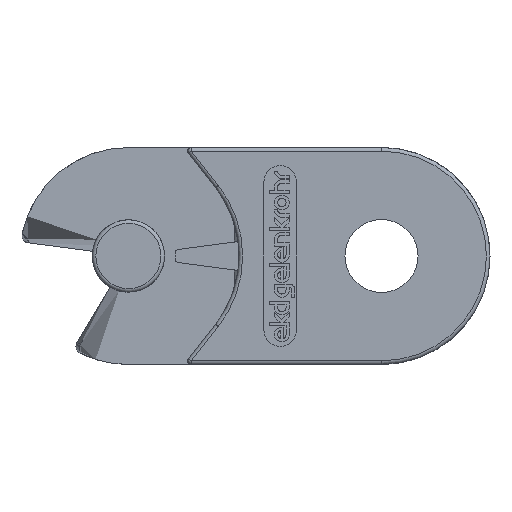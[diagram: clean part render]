
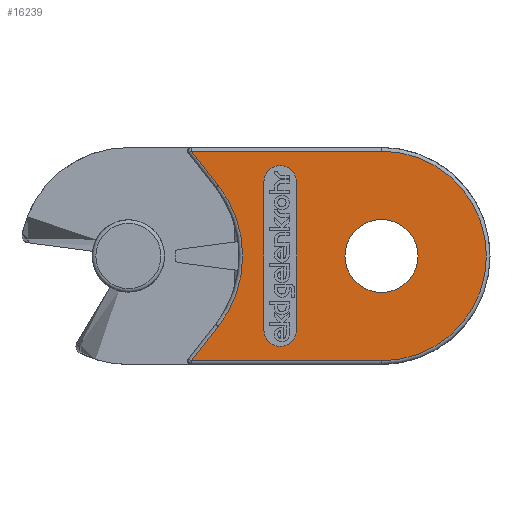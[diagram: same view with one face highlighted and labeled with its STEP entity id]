
A CAD part, left-side view. The second image highlights one B-rep face of the part: STEP entity #16239.
In plain terms, the highlighted planar face has unit normal (-1, 0, 0).
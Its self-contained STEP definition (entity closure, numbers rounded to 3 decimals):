
#8602=CARTESIAN_POINT('',(0.0,12.85,15.));
#8603=VERTEX_POINT('',#8602);
#8604=CARTESIAN_POINT('',(0.0,17.9,15.));
#8605=DIRECTION('',(1.0,0.0,0.0));
#8606=DIRECTION('',(0.0,1.0,0.0));
#8607=AXIS2_PLACEMENT_3D('',#8604,#8605,#8606);
#8608=CIRCLE('',#8607,5.05);
#8609=EDGE_CURVE('',#8603,#8603,#8608,.T.);
#9043=CARTESIAN_POINT('',(0.0,-8.393,29.5));
#9044=VERTEX_POINT('',#9043);
#9068=CARTESIAN_POINT('',(0.0,-8.393,0.5));
#9069=VERTEX_POINT('',#9068);
#9092=CARTESIAN_POINT('',(0.0,-4.668,24.751));
#9093=VERTEX_POINT('',#9092);
#9108=CARTESIAN_POINT('',(0.0,-8.393,29.5));
#9109=DIRECTION('',(0.0,0.617,-0.787));
#9110=VECTOR('',#9109,6.035);
#9111=LINE('',#9108,#9110);
#9112=EDGE_CURVE('',#9044,#9093,#9111,.T.);
#9124=CARTESIAN_POINT('',(0.0,-4.668,5.249));
#9125=VERTEX_POINT('',#9124);
#9126=CARTESIAN_POINT('',(0.0,-17.1,15.));
#9127=DIRECTION('',(-1.0,0.0,0.0));
#9128=DIRECTION('',(0.0,1.,0.));
#9129=AXIS2_PLACEMENT_3D('',#9126,#9127,#9128);
#9130=CIRCLE('',#9129,15.8);
#9131=EDGE_CURVE('',#9093,#9125,#9130,.T.);
#9156=CARTESIAN_POINT('',(0.0,-4.668,5.249));
#9157=DIRECTION('',(0.0,-0.617,-0.787));
#9158=VECTOR('',#9157,6.035);
#9159=LINE('',#9156,#9158);
#9160=EDGE_CURVE('',#9125,#9069,#9159,.T.);
#9170=CARTESIAN_POINT('',(0.0,17.9,29.5));
#9171=VERTEX_POINT('',#9170);
#9181=CARTESIAN_POINT('',(0.0,17.9,29.5));
#9182=DIRECTION('',(0.0,-1.0,0.0));
#9183=VECTOR('',#9182,26.293);
#9184=LINE('',#9181,#9183);
#9185=EDGE_CURVE('',#9171,#9044,#9184,.T.);
#9202=CARTESIAN_POINT('',(0.0,17.9,0.5));
#9203=VERTEX_POINT('',#9202);
#9204=CARTESIAN_POINT('',(0.0,17.9,15.));
#9205=DIRECTION('',(1.0,0.0,0.0));
#9206=DIRECTION('',(0.0,1.0,0.0));
#9207=AXIS2_PLACEMENT_3D('',#9204,#9205,#9206);
#9208=CIRCLE('',#9207,14.5);
#9209=EDGE_CURVE('',#9203,#9171,#9208,.T.);
#9237=CARTESIAN_POINT('',(0.0,-8.393,0.5));
#9238=DIRECTION('',(0.0,1.0,0.0));
#9239=VECTOR('',#9238,26.293);
#9240=LINE('',#9237,#9239);
#9241=EDGE_CURVE('',#9069,#9203,#9240,.T.);
#10244=CARTESIAN_POINT('',(0.0,6.147,25.25));
#10245=VERTEX_POINT('',#10244);
#10246=CARTESIAN_POINT('',(0.0,1.647,25.25));
#10247=VERTEX_POINT('',#10246);
#10248=CARTESIAN_POINT('',(0.0,3.897,25.25));
#10249=DIRECTION('',(1.0,0.0,0.0));
#10250=DIRECTION('',(0.0,0.0,-1.0));
#10251=AXIS2_PLACEMENT_3D('',#10248,#10249,#10250);
#10252=CIRCLE('',#10251,2.25);
#10253=EDGE_CURVE('',#10245,#10247,#10252,.T.);
#10297=CARTESIAN_POINT('',(0.0,6.147,4.75));
#10298=VERTEX_POINT('',#10297);
#10305=CARTESIAN_POINT('',(0.0,1.647,4.75));
#10306=VERTEX_POINT('',#10305);
#10307=CARTESIAN_POINT('',(0.0,3.897,4.75));
#10308=DIRECTION('',(1.0,0.0,0.0));
#10309=DIRECTION('',(0.0,0.0,-1.0));
#10310=AXIS2_PLACEMENT_3D('',#10307,#10308,#10309);
#10311=CIRCLE('',#10310,2.25);
#10312=EDGE_CURVE('',#10306,#10298,#10311,.T.);
#15198=CARTESIAN_POINT('',(0.0,1.647,25.25));
#15199=DIRECTION('',(0.0,0.0,-1.0));
#15200=VECTOR('',#15199,20.5);
#15201=LINE('',#15198,#15200);
#15202=EDGE_CURVE('',#10247,#10306,#15201,.T.);
#15220=CARTESIAN_POINT('',(0.0,6.147,4.75));
#15221=DIRECTION('',(0.0,0.0,1.0));
#15222=VECTOR('',#15221,20.5);
#15223=LINE('',#15220,#15222);
#15224=EDGE_CURVE('',#10298,#10245,#15223,.T.);
#16217=CARTESIAN_POINT('',(0.0,0.189,15.));
#16218=DIRECTION('',(-1.0,0.0,0.0));
#16219=DIRECTION('',(0.0,-1.0,0.0));
#16220=AXIS2_PLACEMENT_3D('',#16217,#16218,#16219);
#16221=PLANE('',#16220);
#16222=ORIENTED_EDGE('',*,*,#9241,.F.);
#16223=ORIENTED_EDGE('',*,*,#9160,.F.);
#16224=ORIENTED_EDGE('',*,*,#9131,.F.);
#16225=ORIENTED_EDGE('',*,*,#9112,.F.);
#16226=ORIENTED_EDGE('',*,*,#9185,.F.);
#16227=ORIENTED_EDGE('',*,*,#9209,.F.);
#16228=EDGE_LOOP('',(#16222,#16223,#16224,#16225,#16226,#16227));
#16229=FACE_OUTER_BOUND('',#16228,.T.);
#16230=ORIENTED_EDGE('',*,*,#10312,.T.);
#16231=ORIENTED_EDGE('',*,*,#15224,.T.);
#16232=ORIENTED_EDGE('',*,*,#10253,.T.);
#16233=ORIENTED_EDGE('',*,*,#15202,.T.);
#16234=EDGE_LOOP('',(#16230,#16231,#16232,#16233));
#16235=FACE_BOUND('',#16234,.T.);
#16236=ORIENTED_EDGE('',*,*,#8609,.T.);
#16237=EDGE_LOOP('',(#16236));
#16238=FACE_BOUND('',#16237,.T.);
#16239=ADVANCED_FACE('',(#16229,#16235,#16238),#16221,.T.);
